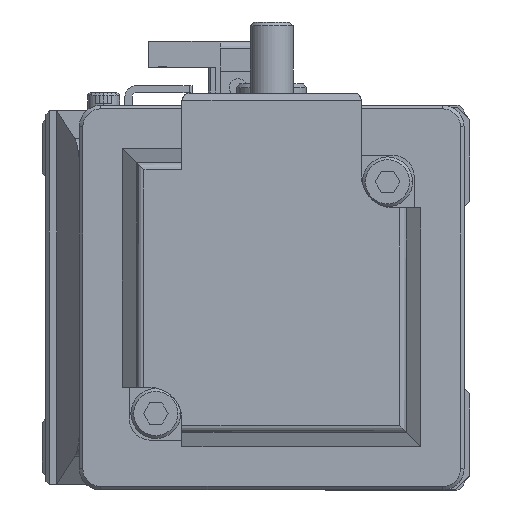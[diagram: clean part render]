
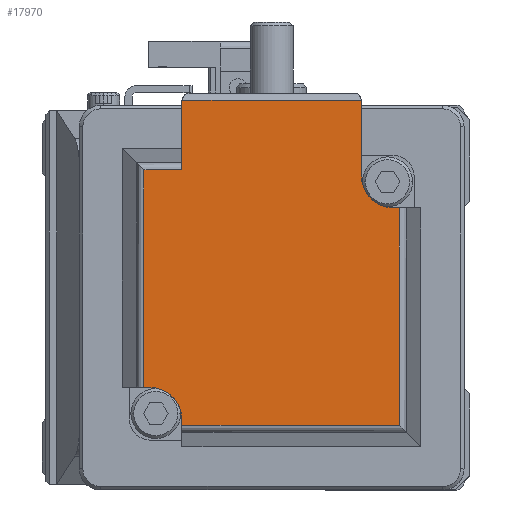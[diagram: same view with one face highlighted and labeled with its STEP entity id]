
A CAD part, left-side view. The second image highlights one B-rep face of the part: STEP entity #17970.
In plain terms, the highlighted planar face has unit normal (-1, 0, 0) as drawn and (0, 1, 0) by its records, which use the part's own axes.
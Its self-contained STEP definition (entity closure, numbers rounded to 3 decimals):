
#116 = CARTESIAN_POINT ( 'NONE',  ( -17.929, 100.6, 25. ) ) ;
#198 = VECTOR ( 'NONE', #16701, 1000. ) ;
#652 = ORIENTED_EDGE ( 'NONE', *, *, #11318, .F. ) ;
#1061 = CARTESIAN_POINT ( 'NONE',  ( -17.929, 100.6, 17.929 ) ) ;
#1508 = CARTESIAN_POINT ( 'NONE',  ( -12.6, 100.6, -21. ) ) ;
#1509 = VERTEX_POINT ( 'NONE', #3339 ) ;
#1812 = VERTEX_POINT ( 'NONE', #23215 ) ;
#1866 = VECTOR ( 'NONE', #20526, 1000. ) ;
#2191 = VERTEX_POINT ( 'NONE', #18766 ) ;
#3128 = CARTESIAN_POINT ( 'NONE',  ( 27.7, 100.6, 25. ) ) ;
#3323 = VERTEX_POINT ( 'NONE', #10146 ) ;
#3339 = CARTESIAN_POINT ( 'NONE',  ( 12.6, 100.6, 17.1 ) ) ;
#3438 = DIRECTION ( 'NONE',  ( 0., 0., -1. ) ) ;
#3485 = DIRECTION ( 'NONE',  ( -1., 0., 0. ) ) ;
#3565 = LINE ( 'NONE', #27601, #26448 ) ;
#3617 = LINE ( 'NONE', #28132, #19706 ) ;
#4925 = VERTEX_POINT ( 'NONE', #11532 ) ;
#5141 = DIRECTION ( 'NONE',  ( 0., 0., -1. ) ) ;
#6715 = VERTEX_POINT ( 'NONE', #26785 ) ;
#7051 = VECTOR ( 'NONE', #19340, 1000. ) ;
#7633 = DIRECTION ( 'NONE',  ( 0., -1., 0. ) ) ;
#8819 = LINE ( 'NONE', #17342, #18117 ) ;
#9038 = LINE ( 'NONE', #1508, #1866 ) ;
#9048 = EDGE_CURVE ( 'NONE', #14849, #11814, #20584, .T. ) ;
#9884 = EDGE_CURVE ( 'NONE', #19640, #4925, #3617, .T. ) ;
#10146 = CARTESIAN_POINT ( 'NONE',  ( -17.1, 100.6, -12.6 ) ) ;
#10440 = VECTOR ( 'NONE', #3485, 1000. ) ;
#10608 = CARTESIAN_POINT ( 'NONE',  ( 17.929, 100.6, -17.929 ) ) ;
#10676 = ORIENTED_EDGE ( 'NONE', *, *, #11431, .F. ) ;
#11318 = EDGE_CURVE ( 'NONE', #24137, #19640, #32109, .T. ) ;
#11431 = EDGE_CURVE ( 'NONE', #11814, #3323, #26133, .T. ) ;
#11532 = CARTESIAN_POINT ( 'NONE',  ( 17.929, 100.6, -12.6 ) ) ;
#11597 = CARTESIAN_POINT ( 'NONE',  ( -17.1, 100.6, -17.1 ) ) ;
#11814 = VERTEX_POINT ( 'NONE', #18134 ) ;
#12147 = AXIS2_PLACEMENT_3D ( 'NONE', #11597, #19641, #3438 ) ;
#12583 = ORIENTED_EDGE ( 'NONE', *, *, #28276, .T. ) ;
#12835 = CARTESIAN_POINT ( 'NONE',  ( 17.929, 100.6, 25. ) ) ;
#13314 = EDGE_CURVE ( 'NONE', #4925, #24744, #20535, .T. ) ;
#13423 = ORIENTED_EDGE ( 'NONE', *, *, #30486, .F. ) ;
#13426 = ORIENTED_EDGE ( 'NONE', *, *, #13314, .F. ) ;
#13958 = EDGE_CURVE ( 'NONE', #2191, #1509, #29845, .T. ) ;
#14179 = EDGE_CURVE ( 'NONE', #24137, #6715, #9038, .T. ) ;
#14533 = CARTESIAN_POINT ( 'NONE',  ( 17.1, 100.6, 17.1 ) ) ;
#14581 = LINE ( 'NONE', #3128, #198 ) ;
#14849 = VERTEX_POINT ( 'NONE', #1061 ) ;
#15014 = LINE ( 'NONE', #17051, #10440 ) ;
#15324 = EDGE_CURVE ( 'NONE', #21571, #14849, #15014, .T. ) ;
#16007 = CARTESIAN_POINT ( 'NONE',  ( 17.929, 100.6, -17.929 ) ) ;
#16701 = DIRECTION ( 'NONE',  ( 0., 0., 1. ) ) ;
#16982 = EDGE_LOOP ( 'NONE', ( #35151, #13423, #13426, #22990, #652, #29628, #12583, #10676, #32258, #25271, #31627, #30512 ) ) ;
#17051 = CARTESIAN_POINT ( 'NONE',  ( 17.929, 100.6, 17.929 ) ) ;
#17342 = CARTESIAN_POINT ( 'NONE',  ( 17.929, 100.6, 12.6 ) ) ;
#17370 = DIRECTION ( 'NONE',  ( 0., 0., -1. ) ) ;
#17970 = ADVANCED_FACE ( 'NONE', ( #25518 ), #18172, .F. ) ;
#18117 = VECTOR ( 'NONE', #22808, 1000. ) ;
#18134 = CARTESIAN_POINT ( 'NONE',  ( -17.929, 100.6, -12.6 ) ) ;
#18172 = PLANE ( 'NONE',  #18474 ) ;
#18474 = AXIS2_PLACEMENT_3D ( 'NONE', #12835, #7633, #5141 ) ;
#18766 = CARTESIAN_POINT ( 'NONE',  ( 17.1, 100.6, 12.6 ) ) ;
#19340 = DIRECTION ( 'NONE',  ( 1., 0., 0. ) ) ;
#19640 = VERTEX_POINT ( 'NONE', #16007 ) ;
#19641 = DIRECTION ( 'NONE',  ( 0., -1., 0. ) ) ;
#19695 = VECTOR ( 'NONE', #30970, 1000. ) ;
#19706 = VECTOR ( 'NONE', #20052, 1000. ) ;
#20052 = DIRECTION ( 'NONE',  ( 0., 0., 1. ) ) ;
#20526 = DIRECTION ( 'NONE',  ( 0., 0., 1. ) ) ;
#20535 = LINE ( 'NONE', #25605, #19695 ) ;
#20584 = LINE ( 'NONE', #116, #31234 ) ;
#21571 = VERTEX_POINT ( 'NONE', #27564 ) ;
#21824 = DIRECTION ( 'NONE',  ( 1., 0., 0. ) ) ;
#22289 = CARTESIAN_POINT ( 'NONE',  ( -12.6, 100.6, -17.929 ) ) ;
#22808 = DIRECTION ( 'NONE',  ( -1., 0., 0. ) ) ;
#22990 = ORIENTED_EDGE ( 'NONE', *, *, #9884, .F. ) ;
#23215 = CARTESIAN_POINT ( 'NONE',  ( 27.7, 100.6, 12.6 ) ) ;
#23841 = AXIS2_PLACEMENT_3D ( 'NONE', #14533, #33558, #17370 ) ;
#24137 = VERTEX_POINT ( 'NONE', #22289 ) ;
#24744 = VERTEX_POINT ( 'NONE', #29351 ) ;
#25127 = DIRECTION ( 'NONE',  ( 0., 0., 1. ) ) ;
#25271 = ORIENTED_EDGE ( 'NONE', *, *, #15324, .F. ) ;
#25518 = FACE_OUTER_BOUND ( 'NONE', #16982, .T. ) ;
#25605 = CARTESIAN_POINT ( 'NONE',  ( 17.929, 100.6, -12.6 ) ) ;
#26133 = LINE ( 'NONE', #27867, #7051 ) ;
#26448 = VECTOR ( 'NONE', #25127, 1000. ) ;
#26785 = CARTESIAN_POINT ( 'NONE',  ( -12.6, 100.6, -17.1 ) ) ;
#27158 = EDGE_CURVE ( 'NONE', #1812, #2191, #8819, .T. ) ;
#27368 = CIRCLE ( 'NONE', #12147, 4.5 ) ;
#27469 = DIRECTION ( 'NONE',  ( 0., 0., -1. ) ) ;
#27564 = CARTESIAN_POINT ( 'NONE',  ( 12.6, 100.6, 17.929 ) ) ;
#27601 = CARTESIAN_POINT ( 'NONE',  ( 12.6, 100.6, 25. ) ) ;
#27867 = CARTESIAN_POINT ( 'NONE',  ( 17.929, 100.6, -12.6 ) ) ;
#28132 = CARTESIAN_POINT ( 'NONE',  ( 17.929, 100.6, 25. ) ) ;
#28276 = EDGE_CURVE ( 'NONE', #6715, #3323, #27368, .T. ) ;
#29351 = CARTESIAN_POINT ( 'NONE',  ( 27.7, 100.6, -12.6 ) ) ;
#29628 = ORIENTED_EDGE ( 'NONE', *, *, #14179, .T. ) ;
#29845 = CIRCLE ( 'NONE', #23841, 4.5 ) ;
#30486 = EDGE_CURVE ( 'NONE', #24744, #1812, #14581, .T. ) ;
#30512 = ORIENTED_EDGE ( 'NONE', *, *, #13958, .F. ) ;
#30970 = DIRECTION ( 'NONE',  ( 1., 0., 0. ) ) ;
#31152 = EDGE_CURVE ( 'NONE', #1509, #21571, #3565, .T. ) ;
#31234 = VECTOR ( 'NONE', #27469, 1000. ) ;
#31627 = ORIENTED_EDGE ( 'NONE', *, *, #31152, .F. ) ;
#32109 = LINE ( 'NONE', #10608, #32958 ) ;
#32258 = ORIENTED_EDGE ( 'NONE', *, *, #9048, .F. ) ;
#32958 = VECTOR ( 'NONE', #21824, 1000. ) ;
#33558 = DIRECTION ( 'NONE',  ( 0., 1., 0. ) ) ;
#35151 = ORIENTED_EDGE ( 'NONE', *, *, #27158, .F. ) ;
